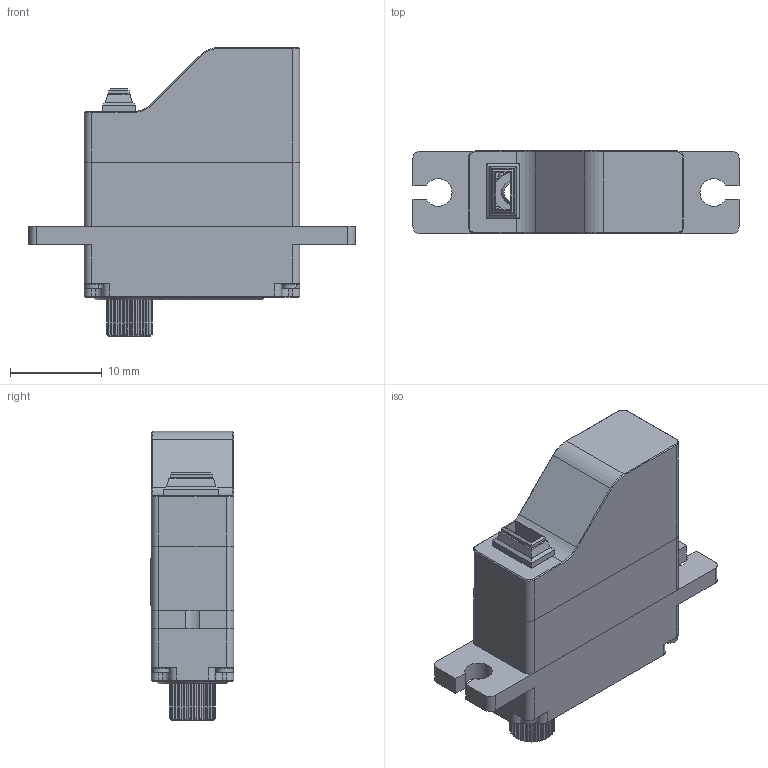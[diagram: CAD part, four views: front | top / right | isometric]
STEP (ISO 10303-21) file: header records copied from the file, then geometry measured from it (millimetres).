
FILE_DESCRIPTION (( 'STEP AP214' ), '1' );
FILE_NAME ('DS09_DM_20230113.STEP', '2023-01-14T03:08:27', ( '微软用户' ), ( '微软中国' ), 'SwSTEP 2.0', 'SolidWorks 2016', '' );
FILE_SCHEMA (( 'AUTOMOTIVE_DESIGN' ));
Length unit declared in the file: millimetre
Products named in the file (1): DS09_DM_20230113
Bounding box: 35.5 x 9.1 x 31.5 mm (x, y, z)
Surface area: 2651.3 mm2 (no closed solid volume)
Topology: 0 solids, 24 shells, 594 faces, 1811 edges, 1246 vertices
Faces by surface type: plane 289, bspline 145, cylinder 111, cone 49
Entity records: 29712 total; most frequent: CARTESIAN_POINT 8289, ORIENTED_EDGE 3138, DIRECTION 2596, EDGE_CURVE 1811, VERTEX_POINT 1246, LINE 1046, VECTOR 1046, AXIS2_PLACEMENT_3D 775
